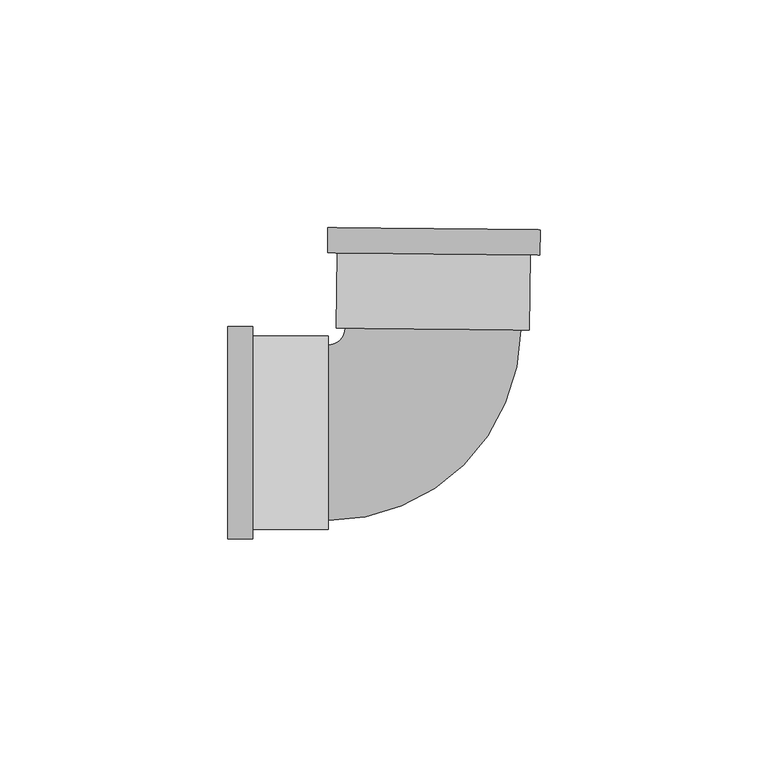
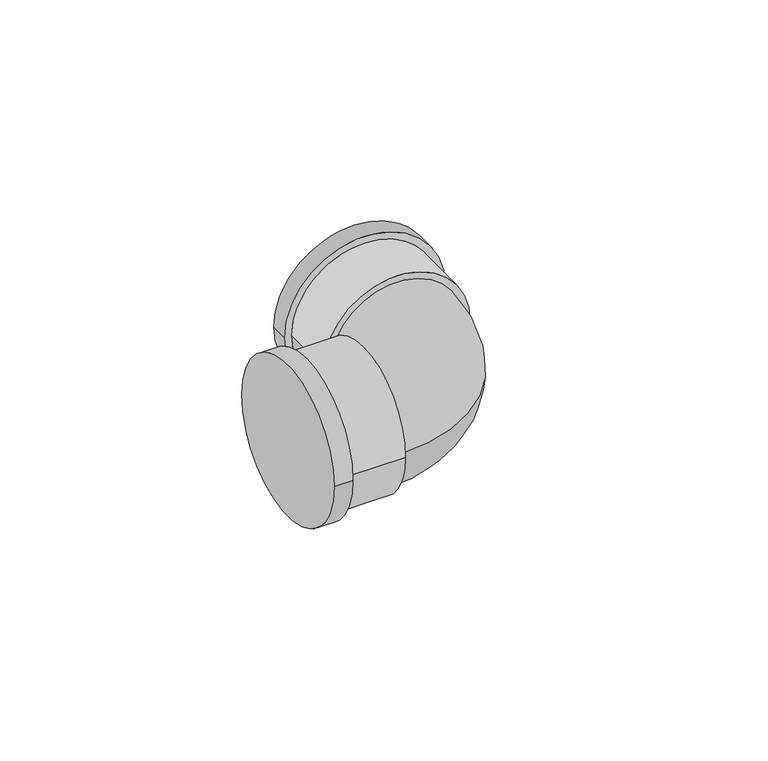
"""IFC4 building model written with IfcOpenShell, lengths in millimetres: pipe fitting geometry, Cotovelo - PVC - CW : Padrão."""

from ifc_helpers import new_model, si_unit, point, frame, origin, place, context, project, spatial, circle_curve, ellipse_curve, trimmed, source, transform, mapped, element, save
from ifc_brep_helpers import plane_surface, cylinder_surface, revolved_surface, advanced_brep


def pipe_fitting_485d179d(model_context):
    return source(origin(), model_context, "Body", "AdvancedBrep", [
        advanced_brep(
        [(-44.7726769, -23.2925, 0.0), (-44.7726769, 23.2925, 0.0), (-39.2726769, -23.2925, 0.0), (-39.2726769, 23.2925, 0.0), (-39.2726769, -21.175, 0.0), (-39.2726769, 21.175, 0.0), (-22.7726769, 21.175, 0.0), (-22.7726769, -21.175, 0.0), (-22.7726769, -19.25, 0.0), (-22.7726769, 19.25, 0.0), (-19.0228618, 22.9627533, 0.0), (19.475239, 22.5803538, 0.0), (21.4001441, 22.5612338, 0.0), (-20.9477669, 22.9818733, 0.0), (-22.8466484, 45.00182, 0.0), (23.7360536, 44.5391166, 0.0), (21.5640296, 39.0604199, 0.0), (-20.7838814, 39.4810594, 0.0), (-22.9012769, 39.5020913, 0.0), (23.6814251, 39.0393879, 0.0)],
        [
            (0, 1, circle_curve(frame((-44.7726769, 0.0, 0.0), z_axis=(-1.0, 0.0, 0.0), x_axis=(0.0, 1.0, 0.0)), 23.2925)),
            (1, 0, circle_curve(frame((-44.7726769, 0.0, 0.0), z_axis=(-1.0, 0.0, 0.0), x_axis=(0.0, 1.0, 0.0)), 23.2925)),
            (2, 3, circle_curve(frame((-39.2726769, 0.0, 0.0), z_axis=(1.0, 0.0, 0.0), x_axis=(0.0, 1.0, 0.0)), 23.2925)),
            (3, 2, circle_curve(frame((-39.2726769, 0.0, 0.0), z_axis=(1.0, 0.0, 0.0), x_axis=(0.0, 1.0, 0.0)), 23.2925)),
            (4, 5, circle_curve(frame((-39.2726769, 0.0, 0.0), z_axis=(-1.0, 0.0, 0.0), x_axis=(0.0, -1.0, 0.0)), 21.175)),
            (5, 4, circle_curve(frame((-39.2726769, 0.0, 0.0), z_axis=(-1.0, 0.0, 0.0), x_axis=(0.0, -1.0, 0.0)), 21.175)),
            (0, 2),
            (3, 1),
            (6, 7, circle_curve(frame((-22.7726769, 0.0, 0.0), z_axis=(1.0, 0.0, 0.0), x_axis=(0.0, -1.0, 0.0)), 21.175)),
            (7, 6, circle_curve(frame((-22.7726769, 0.0, 0.0), z_axis=(1.0, 0.0, 0.0), x_axis=(0.0, -1.0, 0.0)), 21.175)),
            (8, 9, circle_curve(frame((-22.7726769, 0.0, 0.0), z_axis=(-1.0, 0.0, 0.0), x_axis=(0.0, 1.0, 0.0)), 19.25)),
            (9, 8, circle_curve(frame((-22.7726769, 0.0, 0.0), z_axis=(-1.0, 0.0, 0.0), x_axis=(0.0, 1.0, 0.0)), 19.25)),
            (6, 5),
            (4, 7),
            (10, 9, circle_curve(frame((-22.7726769, 23.0, 0.0), z_axis=(0.0, 0.0, -1.0), x_axis=(0.0, -1.0, 0.0)), 3.75)),
            (8, 11, circle_curve(frame((-22.7726769, 23.0, 0.0), z_axis=(0.0, 0.0, 1.0), x_axis=(0.0, -1.0, 0.0)), 42.25)),
            (11, 10, circle_curve(frame((0.2261886, 22.7715535, 0.0), z_axis=(-0.009932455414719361, -0.999950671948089, 0.0), x_axis=(-0.999950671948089, 0.009932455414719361, 0.0)), 19.25)),
            (10, 11, circle_curve(frame((0.2261886, 22.7715535, 0.0), z_axis=(-0.009932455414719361, -0.999950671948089, 0.0), x_axis=(-0.999950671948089, 0.009932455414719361, 0.0)), 19.25)),
            (12, 13, circle_curve(frame((0.2261886, 22.7715535, 0.0), z_axis=(-0.009932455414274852, -0.9999506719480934, 0.0), x_axis=(-0.9999506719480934, 0.009932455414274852, 0.0)), 21.175)),
            (13, 12, circle_curve(frame((0.2261886, 22.7715535, 0.0), z_axis=(-0.009932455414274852, -0.9999506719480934, 0.0), x_axis=(-0.9999506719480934, 0.009932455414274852, 0.0)), 21.175)),
            (14, 15, circle_curve(frame((0.4447026, 44.7704683, 0.0), z_axis=(0.009932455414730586, 0.9999506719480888, 0.0), x_axis=(0.9999506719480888, -0.009932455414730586, 0.0)), 23.2925)),
            (15, 14, circle_curve(frame((0.4447026, 44.7704683, 0.0), z_axis=(0.009932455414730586, 0.9999506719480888, 0.0), x_axis=(0.9999506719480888, -0.009932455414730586, 0.0)), 23.2925)),
            (12, 16),
            (16, 17, circle_curve(frame((0.3900741, 39.2707396, 0.0), z_axis=(-0.009932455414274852, -0.9999506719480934, 0.0), x_axis=(-0.9999506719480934, 0.009932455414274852, 0.0)), 21.175)),
            (17, 13),
            (17, 16, circle_curve(frame((0.3900741, 39.2707396, 0.0), z_axis=(-0.009932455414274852, -0.9999506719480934, 0.0), x_axis=(-0.9999506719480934, 0.009932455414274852, 0.0)), 21.175)),
            (18, 19, circle_curve(frame((0.3900741, 39.2707396, 0.0), z_axis=(-0.009932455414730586, -0.9999506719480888, 0.0), x_axis=(0.9999506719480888, -0.009932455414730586, 0.0)), 23.2925)),
            (19, 18, circle_curve(frame((0.3900741, 39.2707396, 0.0), z_axis=(-0.009932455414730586, -0.9999506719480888, 0.0), x_axis=(0.9999506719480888, -0.009932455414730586, 0.0)), 23.2925)),
            (14, 18),
            (19, 15),
        ],
        [
            plane_surface(frame((-44.7726769, 0.0, 0.0), z_axis=(-1.0, 0.0, 0.0), x_axis=(0.0, 0.0, 1.0))),
            plane_surface(frame((-39.2726769, 0.0, 0.0), z_axis=(1.0, 0.0, 0.0), x_axis=(0.0, 0.0, 1.0))),
            cylinder_surface(frame((-44.7726769, 0.0, 0.0), z_axis=(-1.0, 0.0, 0.0), x_axis=(0.0, 1.0, 0.0)), 23.2925),
            plane_surface(frame((-22.7726769, 0.0, 0.0), z_axis=(1.0, 0.0, 0.0), x_axis=(0.0, 0.0, 1.0))),
            cylinder_surface(frame((-22.7726769, 0.0, 0.0), z_axis=(1.0, 0.0, 0.0), x_axis=(0.0, -1.0, 0.0)), 21.175),
            revolved_surface(trimmed(ellipse_curve(frame((-22.7726769, 0.0, 0.0), z_axis=(-1.0, 0.0, 0.0), x_axis=(0.0, 1.0, 0.0)), 19.25, 19.25), [point((-22.7726769, -19.25, 0.0))], [point((-22.7726769, 19.25, 0.0))], True, "CARTESIAN"), (-22.7726769, 23.0, 0.0), (0.0, 0.0, 1.0)),
            revolved_surface(trimmed(ellipse_curve(frame((-22.7726769, 0.0, 0.0), z_axis=(-1.0, 0.0, 0.0), x_axis=(0.0, 1.0, 0.0)), 19.25, 19.25), [point((-22.7726769, 19.25, 0.0))], [point((-22.7726769, -19.25, 0.0))], True, "CARTESIAN"), (-22.7726769, 23.0, 0.0), (0.0, 0.0, 1.0)),
            plane_surface(frame((0.2261886, 22.7715535, 0.0), z_axis=(-0.00993245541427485, -0.9999506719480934, 0.0), x_axis=(0.0, 0.0, 1.0))),
            plane_surface(frame((0.4447026, 44.7704683, 0.0), z_axis=(0.00993245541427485, 0.9999506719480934, 0.0), x_axis=(0.0, 0.0, 1.0))),
            cylinder_surface(frame((0.2261886, 22.7715535, 0.0), z_axis=(-0.009932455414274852, -0.9999506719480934, 0.0), x_axis=(-0.9999506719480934, 0.009932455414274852, 0.0)), 21.175),
            plane_surface(frame((0.3900741, 39.2707396, 0.0), z_axis=(-0.009932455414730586, -0.9999506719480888, 0.0), x_axis=(0.0, 0.0, 1.0))),
            cylinder_surface(frame((0.4447026, 44.7704683, 0.0), z_axis=(0.009932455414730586, 0.9999506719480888, 0.0), x_axis=(0.9999506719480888, -0.009932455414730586, 0.0)), 23.2925),
        ],
        [
            (0, [[1, 2]]),
            (1, [[3, 4], [5, 6]]),
            (2, [[-1, 7, -4, 8]]),
            (2, [[-2, -8, -3, -7]]),
            (3, [[9, 10], [11, 12]]),
            (4, [[-9, 13, -5, 14]]),
            (4, [[-10, -14, -6, -13]]),
            (5, [[15, -11, 16, 17]]),
            (6, [[-15, 18, -16, -12]]),
            (7, [[19, 20], [-17, -18]]),
            (8, [[21, 22]]),
            (9, [[-19, 23, 24, 25]]),
            (9, [[-20, -25, 26, -23]]),
            (10, [[27, 28], [-24, -26]]),
            (11, [[-21, 29, -28, 30]]),
            (11, [[-22, -30, -27, -29]]),
        ],
    ),
    ])


if __name__ == "__main__":
    model = new_model("IFC4")
    model_context = context("Model", 3, world=origin())
    ifc_project = project(units=[si_unit("LENGTHUNIT", "METRE", prefix="MILLI")], contexts=[model_context])
    site = spatial("IfcSite", under=ifc_project)
    building = spatial("IfcBuilding", under=site)
    placement = place(None, origin())
    pipe_fitting_shape = pipe_fitting_485d179d(model_context)
    element("IfcPipeFitting", 1, ObjectType="Cotovelo - PVC - CW : Padrão", at=placement, inside=building, context=model_context, shape_type="MappedRepresentation", body=[
        mapped(pipe_fitting_shape, transform((0.0, 0.0, 0.0), x_axis=(1.0, 0.0, 0.0), y_axis=(0.0, 1.0, 0.0), z_axis=(0.0, 0.0, 1.0))),
    ])
    save(model, "model.ifc")
